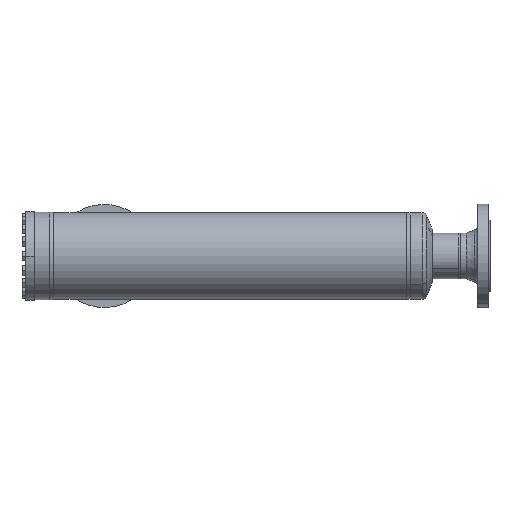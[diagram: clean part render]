
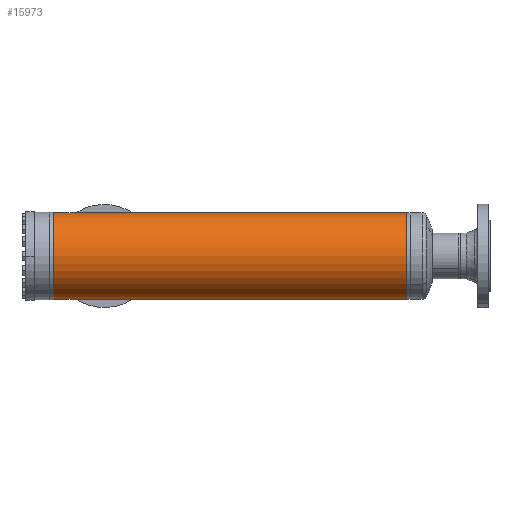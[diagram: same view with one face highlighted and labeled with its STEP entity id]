
A CAD part, left-side view. The second image highlights one B-rep face of the part: STEP entity #15973.
In plain terms, the highlighted cylindrical face has radius 84.15 mm (diameter 168.3 mm), a partial arc.
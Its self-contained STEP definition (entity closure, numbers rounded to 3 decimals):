
#16651 = FACE_OUTER_BOUND ( 'NONE', #15720, .T. ) ;
#16652 = CYLINDRICAL_SURFACE ( 'NONE', #16653, 84.15 ) ;
#16653 = AXIS2_PLACEMENT_3D ( 'NONE', #16654, #16655, #16656 ) ;
#16654 = CARTESIAN_POINT ( 'NONE',  ( 0., 0., 0. ) ) ;
#16655 = DIRECTION ( 'NONE',  ( 0., -1., 0. ) ) ;
#16656 = DIRECTION ( 'NONE',  ( 0., 0., -1. ) ) ;
#17254 = CIRCLE ( 'NONE', #17256, 84.15 ) ;
#17256 = AXIS2_PLACEMENT_3D ( 'NONE', #17257, #17258, #17259 ) ;
#17257 = CARTESIAN_POINT ( 'NONE',  ( 0., 3.464, 0. ) ) ;
#17258 = DIRECTION ( 'NONE',  ( 0., -1., 0. ) ) ;
#17259 = DIRECTION ( 'NONE',  ( 0., 0., -1. ) ) ;
#2119 = VERTEX_POINT ( 'NONE', #7176 ) ;
#3283 = VERTEX_POINT ( 'NONE', #8102 ) ;
#4991 = ORIENTED_EDGE ( 'NONE', *, *, #16382, .F. ) ;
#5076 = ORIENTED_EDGE ( 'NONE', *, *, #12704, .T. ) ;
#5179 = EDGE_CURVE ( 'NONE', #3283, #2119, #13221, .T. ) ;
#5244 = ORIENTED_EDGE ( 'NONE', *, *, #5179, .T. ) ;
#5281 = VERTEX_POINT ( 'NONE', #13922 ) ;
#5339 = EDGE_CURVE ( 'NONE', #3283, #5281, #14591, .T. ) ;
#7176 = CARTESIAN_POINT ( 'NONE',  ( 0., 686.536, -84.15 ) ) ;
#8102 = CARTESIAN_POINT ( 'NONE',  ( 0., 686.536, 84.15 ) ) ;
#10140 = LINE ( 'NONE', #10141, #10142 ) ;
#10141 = CARTESIAN_POINT ( 'NONE',  ( 0., 0., -84.15 ) ) ;
#10142 = VECTOR ( 'NONE', #10143, 1000. ) ;
#10143 = DIRECTION ( 'NONE',  ( 0., -1., 0. ) ) ;
#11358 = CARTESIAN_POINT ( 'NONE',  ( 0., 3.464, -84.15 ) ) ;
#12704 = EDGE_CURVE ( 'NONE', #2119, #13641, #10140, .T. ) ;
#13221 = CIRCLE ( 'NONE', #13222, 84.15 ) ;
#13222 = AXIS2_PLACEMENT_3D ( 'NONE', #13223, #13224, #13225 ) ;
#13223 = CARTESIAN_POINT ( 'NONE',  ( 0., 686.536, 0. ) ) ;
#13224 = DIRECTION ( 'NONE',  ( 0., -1., 0. ) ) ;
#13225 = DIRECTION ( 'NONE',  ( 0., 0., -1. ) ) ;
#13641 = VERTEX_POINT ( 'NONE', #11358 ) ;
#13922 = CARTESIAN_POINT ( 'NONE',  ( 0., 3.464, 84.15 ) ) ;
#14591 = LINE ( 'NONE', #14592, #14593 ) ;
#14592 = CARTESIAN_POINT ( 'NONE',  ( 0., 0., 84.15 ) ) ;
#14593 = VECTOR ( 'NONE', #14595, 1000. ) ;
#14595 = DIRECTION ( 'NONE',  ( 0., -1., 0. ) ) ;
#15164 = ORIENTED_EDGE ( 'NONE', *, *, #5339, .F. ) ;
#15720 = EDGE_LOOP ( 'NONE', ( #15164, #5244, #5076, #4991 ) ) ;
#15973 = ADVANCED_FACE ( 'NONE', ( #16651 ), #16652, .T. ) ;
#16382 = EDGE_CURVE ( 'NONE', #5281, #13641, #17254, .T. ) ;
